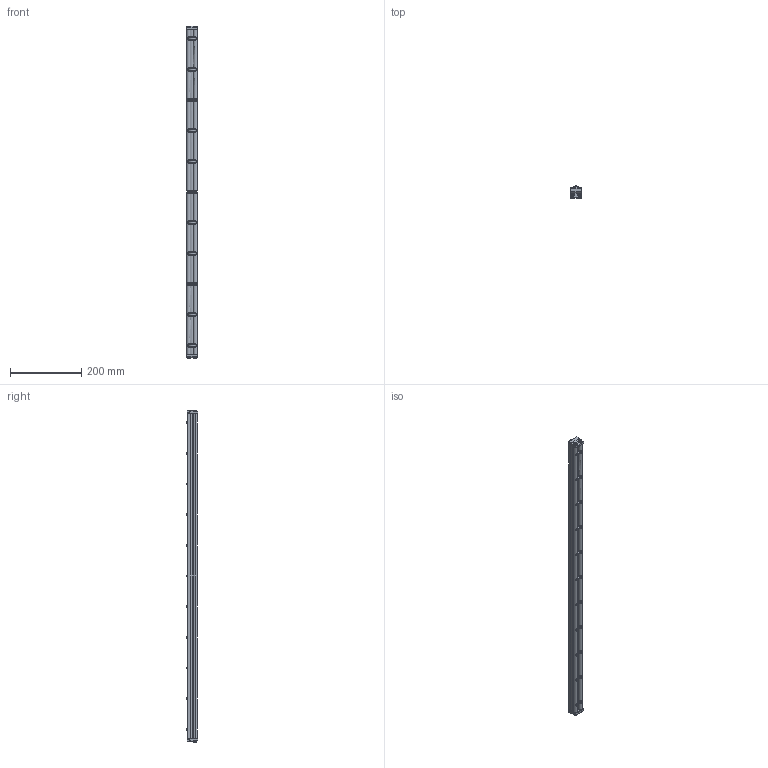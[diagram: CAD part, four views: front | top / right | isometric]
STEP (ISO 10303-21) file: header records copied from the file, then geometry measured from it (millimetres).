
FILE_DESCRIPTION((''),'2;1');
FILE_NAME('206523-36_ASM','2023-02-27T',('jenni.wallner'),(''),'PRO/ENGINEER BY PARAMETRIC TECHNOLOGY CORPORATION, 2012420','PRO/ENGINEER BY PARAMETRIC TECHNOLOGY CORPORATION, 2012420','');
FILE_SCHEMA(('CONFIG_CONTROL_DESIGN'));
Length unit declared in the file: inch
Products named in the file (7): 240826; 205977_205978_205979_205978; 9506XXM_950616M; 2436WW_243636; 2410WW_241036; ASM0001_ASM; 206523-36_ASM
Assembly tree (20 placements, depth 3):
  206523-36_ASM
    ASM0001_ASM
      240826  x11
      205977_205978_205979_205978  x2
      9506XXM_950616M  x4
      2436WW_243636
      2410WW_241036
Bounding box: 30.89 x 33.01 x 934.95 mm (x, y, z)
Volume: 447516.5 mm3; surface area: 265863.5 mm2
Topology: 19 solids, 19 shells, 709 faces, 2002 edges, 1317 vertices
Faces by surface type: cylinder 321, plane 236, cone 108, torus 44
Entity records: 16925 total; most frequent: CARTESIAN_POINT 4497, ORIENTED_EDGE 2746, DIRECTION 2516, EDGE_CURVE 1373, AXIS2_PLACEMENT_3D 937, VERTEX_POINT 915, VECTOR 642, LINE 642
